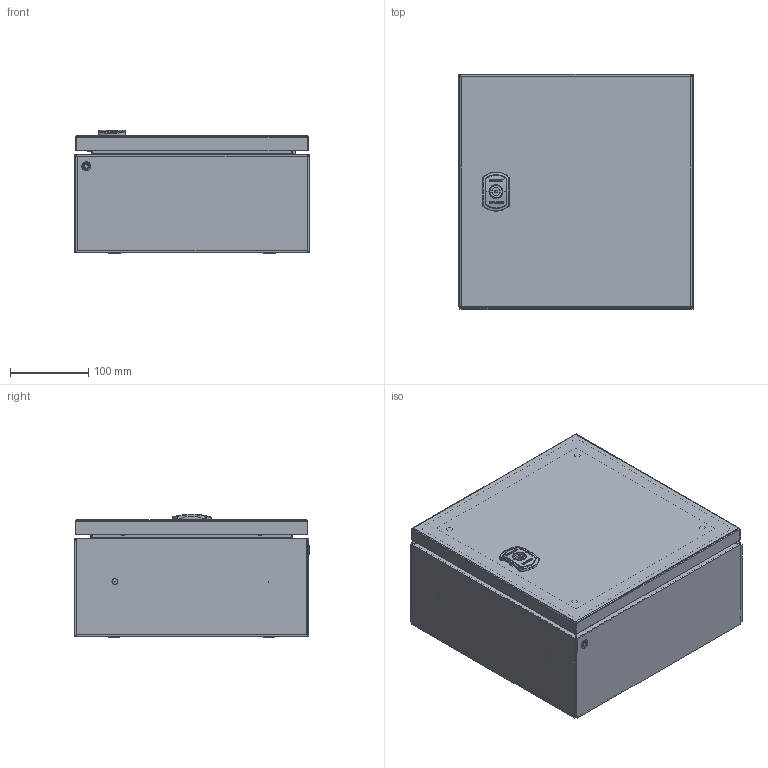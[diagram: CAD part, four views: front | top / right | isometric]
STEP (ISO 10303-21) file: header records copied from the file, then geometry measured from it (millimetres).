
FILE_DESCRIPTION(('Open CASCADE Model'),'2;1');
FILE_NAME('Open CASCADE Shape Model','2025-01-21T00:04:01',('Author'),( 'Open CASCADE'),'Open CASCADE STEP processor 7.8','Open CASCADE 7.8' ,'Unknown');
FILE_SCHEMA(('AUTOMOTIVE_DESIGN { 1 0 10303 214 1 1 1 1 }'));
Length unit declared in the file: millimetre
Products named in the file (28): Compound1; Compound2; Compound3; Compound4; Solid1; Solid2; Solid3; Solid4; Compound5; Solid5; Solid6; Solid7; Solid8; Compound6; Compound7; Solid9; Solid10; Compound8; Solid11; Solid12; Solid13; Solid14; Solid15; Solid16; Solid17; Solid18; Solid19; Solid20
Assembly tree (50 placements, depth 5):
  Compound1
    Compound2
      Compound3
        Compound4
          Solid1
          Solid2
          Solid3  x4
          Solid4  x4
        Compound5  x2
          Solid5
        Solid6  x2
        Solid7  x2
        Solid8  x2
      Compound6
        Compound7
          Solid9
          Solid10  x4
        Compound8
          Solid11
          Solid12
          Solid13
          Solid14
          Solid15
        Solid16
      Solid17  x4
      Solid18  x4
      Solid19
    Solid20  x5
Bounding box: 300 x 301 x 157.71 mm (x, y, z)
Volume: 730262.8 mm3; surface area: 1004981.6 mm2
Topology: 43 solids, 43 shells, 2593 faces, 6463 edges, 4046 vertices
Faces by surface type: plane 1076, cylinder 794, bspline 328, torus 209, cone 146, sphere 36, revolution 4
Full cylindrical faces by diameter (mm): 5.5 x4, 8 x1
Entity records: 113327 total; most frequent: CARTESIAN_POINT 63558, ORIENTED_EDGE 10652, DIRECTION 9757, EDGE_CURVE 5325, AXIS2_PLACEMENT_3D 3453, VERTEX_POINT 3368, LINE 2847, VECTOR 2847
